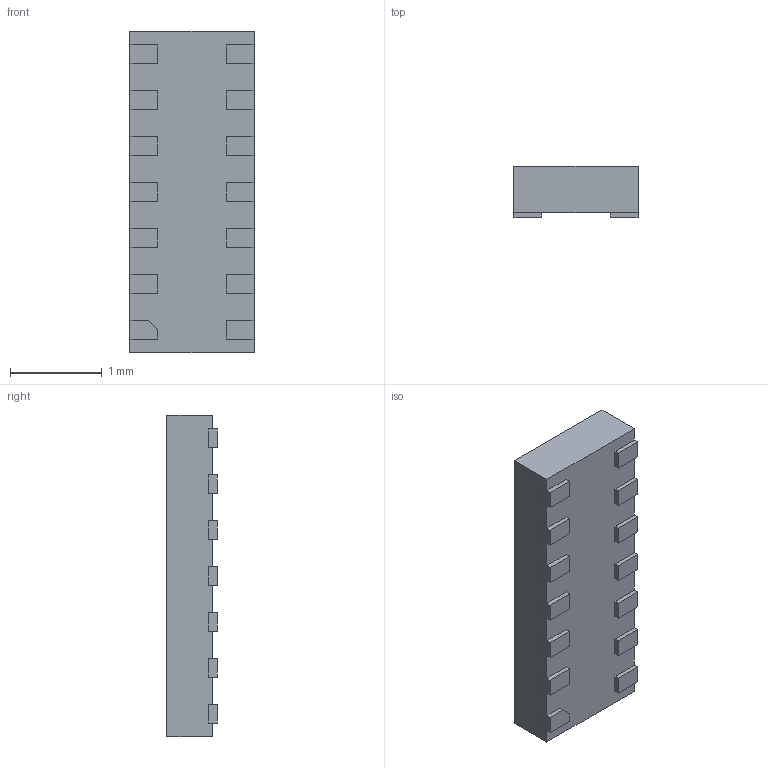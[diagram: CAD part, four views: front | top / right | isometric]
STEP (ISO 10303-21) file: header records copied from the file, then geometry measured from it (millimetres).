
FILE_DESCRIPTION (( 'STEP AP214' ), '1' );
FILE_NAME ('RVZ14.STEP', '2020-08-06T18:36:01', ( '' ), ( '' ), 'SwSTEP 2.0', 'SolidWorks 2017', '' );
FILE_SCHEMA (( 'AUTOMOTIVE_DESIGN' ));
Length unit declared in the file: millimetre
Products named in the file (1): RVZ14
Bounding box: 1.35 x 0.55 x 3.5 mm (x, y, z)
Volume: 2.4 mm3; surface area: 17.9 mm2
Topology: 16 solids, 16 shells, 155 faces, 366 edges, 244 vertices
Faces by surface type: plane 151, cylinder 4
Entity records: 5307 total; most frequent: CARTESIAN_POINT 766, ORIENTED_EDGE 732, DIRECTION 686, EDGE_CURVE 366, VECTOR 358, LINE 358, VERTEX_POINT 244, AXIS2_PLACEMENT_3D 164
